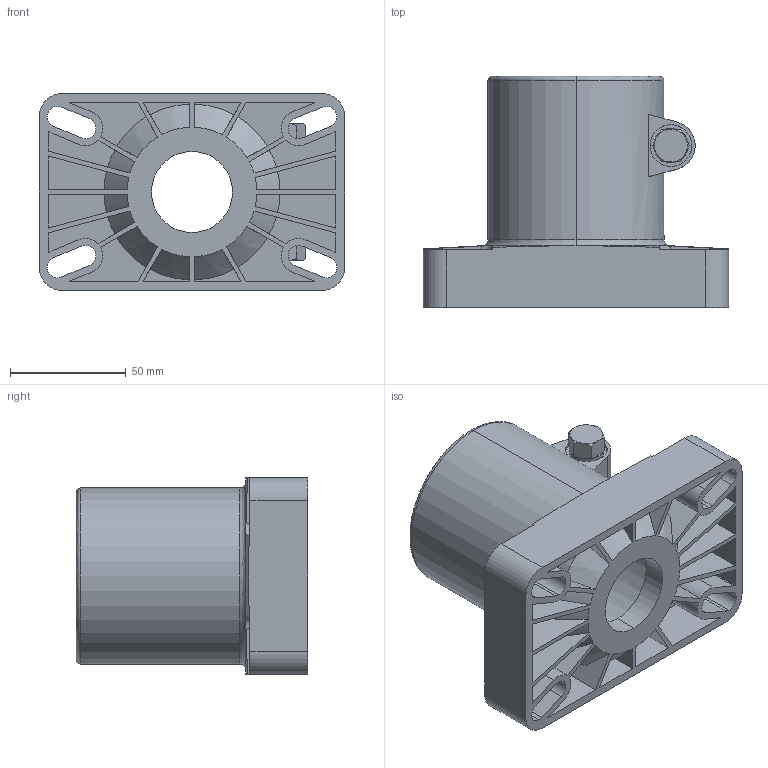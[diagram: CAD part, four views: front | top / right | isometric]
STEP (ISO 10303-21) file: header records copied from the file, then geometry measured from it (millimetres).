
FILE_DESCRIPTION (( 'STEP AP214' ), '1' );
FILE_NAME ('331 4.step', '2017-04-05T07:52:02', ( '' ), ( '' ), 'SwSTEP 2.0', 'SolidWorks 2015', '' );
FILE_SCHEMA (( 'AUTOMOTIVE_DESIGN' ));
Length unit declared in the file: millimetre
Products named in the file (1): 331 4
Bounding box: 132 x 100 x 85 mm (x, y, z)
Volume: 274591.9 mm3; surface area: 100099.5 mm2
Topology: 5 solids, 5 shells, 262 faces, 688 edges, 455 vertices
Faces by surface type: plane 131, cylinder 78, cone 45, bspline 8
Entity records: 8505 total; most frequent: CARTESIAN_POINT 1976, ORIENTED_EDGE 1376, DIRECTION 1293, EDGE_CURVE 688, AXIS2_PLACEMENT_3D 462, VERTEX_POINT 455, VECTOR 369, LINE 369
